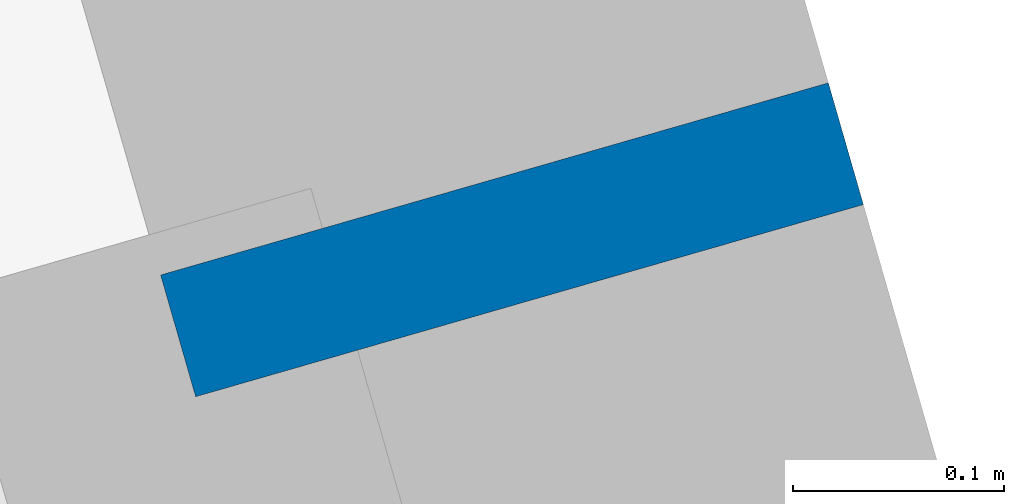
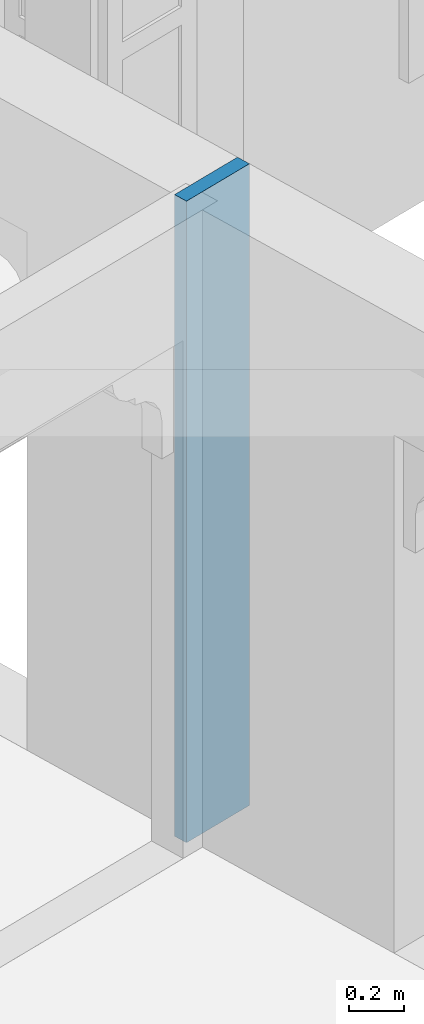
# One storey, part 5 of 16: 1 wall.
"""IFC4 building model written with IfcOpenShell, lengths in metres."""

from ifc_helpers import new_model, si_unit, frame, origin_with_axes, place, context, subcontext, project, spatial, polyline, outline, extrude, material, layer, layer_set, layer_usage, type_object, element, save


model = new_model("IFC4")

# Units and contexts
model_context = context("Model", 3, world=origin_with_axes())
body_context = subcontext(model_context, "Body", "Model", "MODEL_VIEW")
ifc_project = project(units=[si_unit("PLANEANGLEUNIT", "RADIAN"), si_unit("MASSUNIT", "GRAM", prefix="KILO"), si_unit("FORCEUNIT", "NEWTON", prefix="KILO"), si_unit("LENGTHUNIT", "METRE"), si_unit("AREAUNIT", "SQUARE_METRE"), si_unit("VOLUMEUNIT", "CUBIC_METRE")], contexts=[model_context, model_context])

# Site, building, storey
site_placement = place(None, origin_with_axes())
site = spatial("IfcSite", under=ifc_project, at=site_placement, Name="Site plot-9", CompositionType="ELEMENT")
building_placement = place(None, origin_with_axes())
building = spatial("IfcBuilding", under=site, at=building_placement, Name="Building plot-9", CompositionType="ELEMENT")
storey_placement = place(None, origin_with_axes())
storey = spatial("IfcBuildingStorey", under=building, at=storey_placement, Name="plot-9 0", CompositionType="ELEMENT", Elevation=0.0)

# Wall
ifc_material = material(Name="Masonry")
ifc_layer = layer(ifc_material, 0.33, ventilated=False)
ifc_layer_set = layer_set([ifc_layer], Name="exterior_0.08_0.25")
ifc_layer_usage = layer_usage(ifc_layer_set, "AXIS2", "POSITIVE", -0.25)
wall_type = type_object("IfcWallType", Name="exterior_0.08_0.25", PredefinedType="SOLIDWALL", material=ifc_layer_set)
wall_placement = place(storey_placement, frame((-18.0857888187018, 1.32341145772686, 0.0), z_axis=(0.0, 0.0, 1.0), x_axis=(-0.276523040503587, 0.961007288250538, 0.0)))
element("IfcWall", 1, at=wall_placement, inside=storey, type_object=wall_type, material=ifc_layer_usage, Name="exterior", context=body_context, shape_type="SweptSolid", body=[
    extrude(outline(polyline([(-1.68704913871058e-14, 0.0800000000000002), (5.24733459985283e-14, -0.250000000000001), (0.060207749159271, -0.250000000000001), (0.060207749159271, 0.0799999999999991), (-1.68704913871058e-14, 0.0800000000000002)])), origin_with_axes(), (0.0, 0.0, 1.0), 2.85),
])

save(model, "model.ifc")
